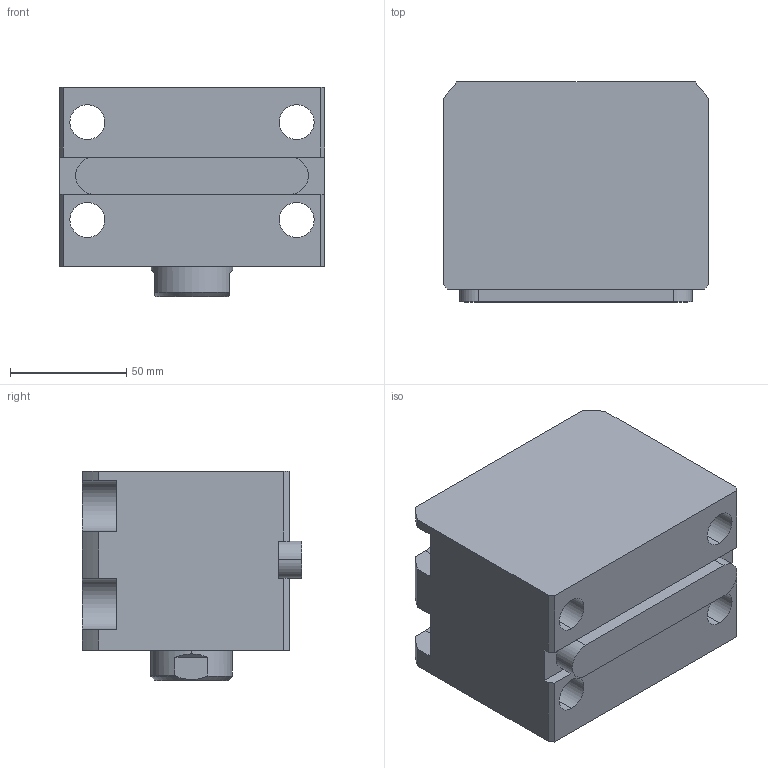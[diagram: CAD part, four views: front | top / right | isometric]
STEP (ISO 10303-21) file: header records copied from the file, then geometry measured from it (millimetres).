
FILE_DESCRIPTION (( 'STEP AP214' ), '1' );
FILE_NAME ('chtb-la63x10n_asm.STEP', '2018-05-02T09:47:14', ( 'Windows' ), ( 'Microsoft' ), 'SwSTEP 2.0', 'SolidWorks 2015', '' );
FILE_SCHEMA (( 'AUTOMOTIVE_DESIGN' ));
Length unit declared in the file: millimetre
Products named in the file (5): CHTB-LA63X10NBT; CHTB-LA63PJ; CHTB63X10NHSG; CHTB-63QG; chtb-la63x10n_asm
Assembly tree (4 placements, depth 2):
  chtb-la63x10n_asm
    CHTB-63QG
    CHTB63X10NHSG
    CHTB-LA63PJ
    CHTB-LA63X10NBT
Bounding box: 114 x 94.5 x 90 mm (x, y, z)
Volume: 683908.9 mm3; surface area: 124016.2 mm2
Topology: 4 solids, 4 shells, 174 faces, 510 edges, 348 vertices
Faces by surface type: cylinder 98, plane 45, bspline 12, cone 12, torus 7
Entity records: 18199 total; most frequent: CARTESIAN_POINT 13678, ORIENTED_EDGE 1008, DIRECTION 778, EDGE_CURVE 504, VERTEX_POINT 348, AXIS2_PLACEMENT_3D 295, EDGE_LOOP 198, LINE 188
